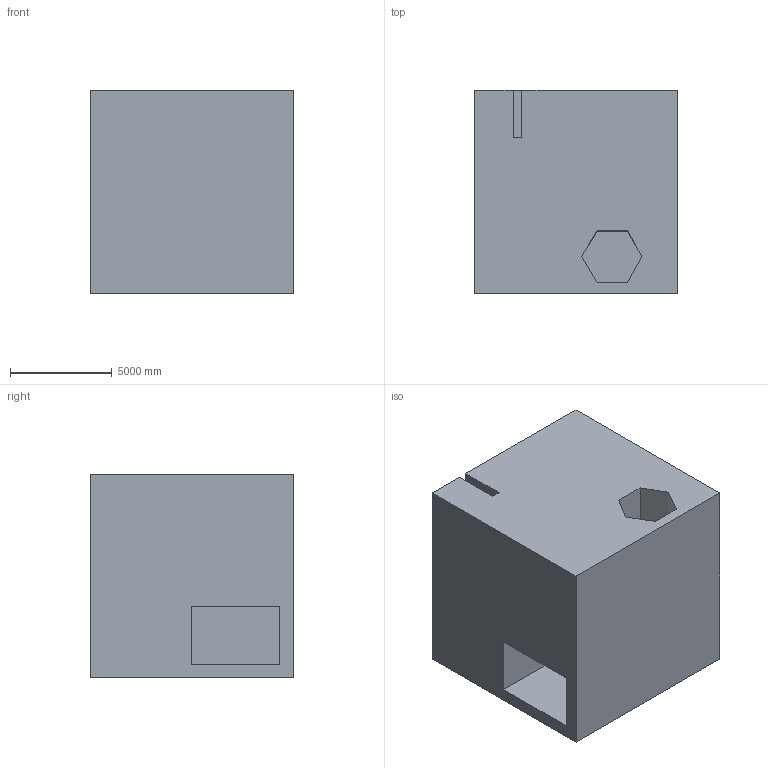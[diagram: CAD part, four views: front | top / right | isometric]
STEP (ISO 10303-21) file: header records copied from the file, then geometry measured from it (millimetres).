
FILE_DESCRIPTION (( 'STEP AP203' ), '1' );
FILE_NAME ('27.STEP', '2022-09-02T13:43:46', ( 'user' ), ( '' ), 'SwSTEP 2.0', 'SolidWorks 2021', '' );
FILE_SCHEMA (( 'CONFIG_CONTROL_DESIGN' ));
Length unit declared in the file: centimetre
Products named in the file (1): 27
Bounding box: 10000 x 10000 x 10000 mm (x, y, z)
Volume: 913596490474.5 mm3; surface area: 730822667 mm2
Topology: 1 solids, 1 shells, 22 faces, 54 edges, 36 vertices
Faces by surface type: plane 22
Entity records: 715 total; most frequent: CARTESIAN_POINT 113, ORIENTED_EDGE 108, DIRECTION 100, EDGE_CURVE 54, LINE 54, VECTOR 54, VERTEX_POINT 36, EDGE_LOOP 24
